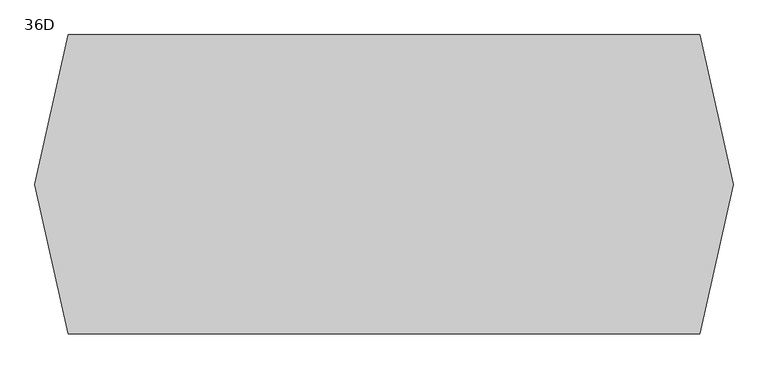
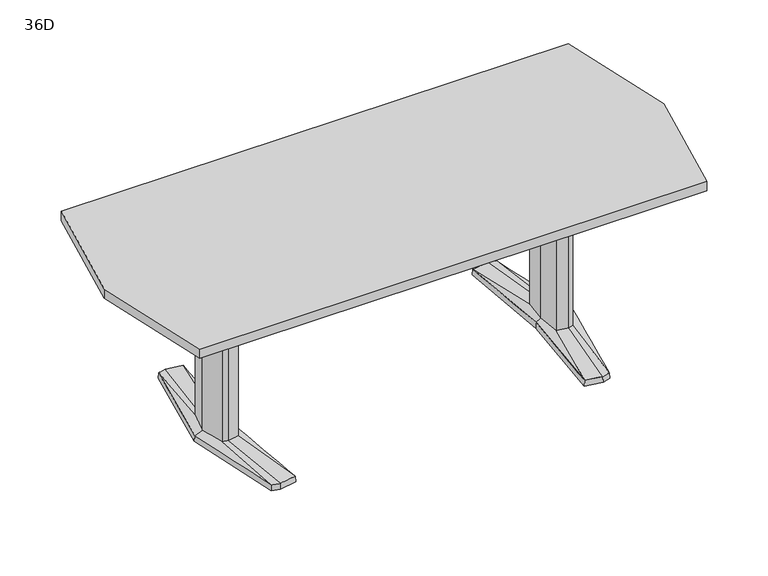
"""IFC4 building model written with IfcOpenShell, lengths in millimetres: furniture geometry, Coalesse_AM_Table_Conference_ETable2_Faceted_84in_AluminiumBase : 36D."""

import ifcopenshell
import ifcopenshell.guid

model = None  # the IFC model being written
_history = None  # IfcOwnerHistory: only IFC2X3 demands one
_inside = {}  # id of a spatial element -> (the spatial element, [elements in it])
_under = {}  # id of a project, library or spatial element -> (it, [spatial elements below it])
_declared = {}  # id of a project -> (the project, [libraries it declares])
_typed = {}  # id of a type object -> (the type object, [elements of that type])
_made_of = {}  # id of a material, layer set ... -> (it, [elements and type objects made of it])


def new_model(schema):
    """Start an empty IFC model of exactly this schema.

    Asked for "IFC4X3", IfcOpenShell would pick the latest addendum, in which some entities
    have other attributes; the version numbers below select the first issue.
    IFC2X3 requires an IfcOwnerHistory on every rooted entity: one is made here for all.
    """
    global model, _history
    if schema == "IFC4X3":
        model = ifcopenshell.file(schema_version=(4, 3, 0, 0))
    else:
        model = ifcopenshell.file(schema=schema)
    _inside.clear()
    _under.clear()
    _declared.clear()
    _typed.clear()
    _made_of.clear()
    _history = None
    if model.schema == "IFC2X3":
        org = make("IfcOrganization", Name="unknown")
        user = make(
            "IfcPersonAndOrganization",
            ThePerson=make("IfcPerson", FamilyName="unknown"),
            TheOrganization=org,
        )
        app = make(
            "IfcApplication",
            ApplicationDeveloper=org,
            Version="unknown",
            ApplicationFullName="unknown",
            ApplicationIdentifier="unknown",
        )
        _history = make(
            "IfcOwnerHistory",
            OwningUser=user,
            OwningApplication=app,
            ChangeAction="ADDED",
            CreationDate=0,
        )
    return model


def make(cls, **values):
    """One entity of the class cls with the attributes given. An attribute that is None is left unset."""
    return model.create_entity(
        cls, **{name: value for name, value in values.items() if value is not None}
    )


def rooted(cls, **values):
    """An entity with a GlobalId (a new one), such as an element, a storey or a relation."""
    return make(cls, GlobalId=ifcopenshell.guid.new(), OwnerHistory=_history, **values)


def si_unit(unit_type, name, prefix=None):
    """IfcSIUnit, for example si_unit("LENGTHUNIT", "METRE", prefix="MILLI")."""
    return make("IfcSIUnit", UnitType=unit_type, Prefix=prefix, Name=name)


def assignment(units):
    """IfcUnitAssignment: the units of a project."""
    return None if units is None else make("IfcUnitAssignment", Units=units)


def point(xyz):
    """IfcCartesianPoint."""
    return None if xyz is None else make("IfcCartesianPoint", Coordinates=xyz)


def direction(xyz):
    """IfcDirection."""
    return None if xyz is None else make("IfcDirection", DirectionRatios=xyz)


def frame(location, z_axis=None, x_axis=None):
    """IfcAxis2Placement3D, a coordinate frame: its origin and axes. An axis left out is left unset."""
    return make(
        "IfcAxis2Placement3D",
        Location=point(location),
        Axis=direction(z_axis),
        RefDirection=direction(x_axis),
    )


def origin():
    """The frame at (0, 0, 0) with its axes left unset."""
    return frame((0.0, 0.0, 0.0))


def place(relative_to, where):
    """IfcLocalPlacement: puts the frame where relative to a parent placement (None: the world)."""
    return make(
        "IfcLocalPlacement", PlacementRelTo=relative_to, RelativePlacement=where
    )


def context(
    kind, dimensions, precision=None, world=None, true_north=None, identifier=None
):
    """IfcGeometricRepresentationContext, for example the 3D "Model" context."""
    return make(
        "IfcGeometricRepresentationContext",
        ContextIdentifier=identifier,
        ContextType=kind,
        CoordinateSpaceDimension=dimensions,
        Precision=precision,
        WorldCoordinateSystem=world,
        TrueNorth=true_north,
    )


def project(units=None, contexts=None):
    """IfcProject with its units and contexts."""
    return rooted(
        "IfcProject",
        Name="project",
        RepresentationContexts=contexts,
        UnitsInContext=assignment(units),
    )


def spatial(cls, under=None, at=None, **own):
    """A site, building, storey or space (cls), placed at a placement, below another one or the project."""
    s = rooted(cls, ObjectPlacement=at, **own)
    if under is not None:
        _under.setdefault(under.id(), (under, []))[1].append(s)
    return s


def polyline(points):
    """IfcPolyline through the points."""
    return make("IfcPolyline", Points=[point(p) for p in points])


def outline(outer, holes=None, kind="AREA"):
    """IfcArbitraryClosedProfileDef: a profile drawn as a closed curve; with holes, ...WithVoids."""
    if holes is None:
        return make("IfcArbitraryClosedProfileDef", ProfileType=kind, OuterCurve=outer)
    return make(
        "IfcArbitraryProfileDefWithVoids",
        ProfileType=kind,
        OuterCurve=outer,
        InnerCurves=holes,
    )


def extrude(swept, where, along, depth):
    """IfcExtrudedAreaSolid: the profile swept, set in the frame where, extruded along a direction by depth."""
    return make(
        "IfcExtrudedAreaSolid",
        SweptArea=swept,
        Position=where,
        ExtrudedDirection=direction(along),
        Depth=depth,
    )


def shape(context_of_items, identifier, shape_type, items):
    """IfcShapeRepresentation: the items that make up one representation, for example the "Body"."""
    return make(
        "IfcShapeRepresentation",
        ContextOfItems=context_of_items,
        RepresentationIdentifier=identifier,
        RepresentationType=shape_type,
        Items=items,
    )


def source(mapping_origin, context_of_items, identifier, shape_type, items):
    """IfcRepresentationMap: a shape defined once, which mapped items show again and again."""
    return make(
        "IfcRepresentationMap",
        MappingOrigin=mapping_origin,
        MappedRepresentation=shape(context_of_items, identifier, shape_type, items),
    )


def transform(
    local_origin,
    x_axis=None,
    y_axis=None,
    z_axis=None,
    scale=None,
    scale2=None,
    scale3=None,
    uniform=True,
):
    """IfcCartesianTransformationOperator3D, or its non-uniform kind. x_axis, y_axis, z_axis: its Axis1, 2, 3."""
    if uniform:
        return make(
            "IfcCartesianTransformationOperator3D",
            Axis1=direction(x_axis),
            Axis2=direction(y_axis),
            LocalOrigin=point(local_origin),
            Scale=scale,
            Axis3=direction(z_axis),
        )
    return make(
        "IfcCartesianTransformationOperator3DnonUniform",
        Axis1=direction(x_axis),
        Axis2=direction(y_axis),
        LocalOrigin=point(local_origin),
        Scale=scale,
        Axis3=direction(z_axis),
        Scale2=scale2,
        Scale3=scale3,
    )


def mapped(mapping_source, mapping_target):
    """IfcMappedItem: shows the shape of a source again, moved by a transform."""
    return make(
        "IfcMappedItem", MappingSource=mapping_source, MappingTarget=mapping_target
    )


def made_of(thing, what):
    """Note that an element or type object is made of a material, layer set ...; save() writes the relation."""
    if what is not None:
        _made_of.setdefault(what.id(), (what, []))[1].append(thing)
    return thing


def element(
    cls,
    number,
    at=None,
    inside=None,
    cuts=None,
    type_object=None,
    material=None,
    context=None,
    identifier="Body",
    shape_type=None,
    held_by="IfcProductDefinitionShape",
    body=None,
    shapes=None,
    **own,
):
    """One element of the class cls, such as IfcWall. Its Tag is "e" and its number.

    at: its placement. inside: the storey or other place that contains it. cuts: it is an
    opening in that element (IfcRelVoidsElement). A single representation is given by context,
    identifier, shape_type and body (its items); several are given by shapes. held_by: the class
    of the entity that holds the representations. save() writes the other relations.
    """
    e = rooted(cls, Tag="e%d" % number, ObjectPlacement=at, **own)
    if body is not None:
        shapes = [shape(context, identifier, shape_type, body)]
    if shapes is not None:
        e.Representation = make(held_by, Representations=shapes)
    if inside is not None:
        _inside.setdefault(inside.id(), (inside, []))[1].append(e)
    if cuts is not None:
        rooted(
            "IfcRelVoidsElement", RelatingBuildingElement=cuts, RelatedOpeningElement=e
        )
    if type_object is not None:
        _typed.setdefault(type_object.id(), (type_object, []))[1].append(e)
    return made_of(e, material)


def aggregate(whole, parts):
    """IfcRelAggregates: a whole, such as a stair, and the parts it consists of."""
    return rooted("IfcRelAggregates", RelatingObject=whole, RelatedObjects=parts)


def save(model, path):
    """Write the relations noted so far, then the file.

    IfcRelAggregates (storeys below a building ...), IfcRelContainedInSpatialStructure (elements
    in a storey), IfcRelDefinesByType, IfcRelAssociatesMaterial and IfcRelDeclares: one each for
    every whole, place, type object, material and project.
    """
    for whole, parts in _under.values():
        aggregate(whole, parts)
    for where, things in _inside.values():
        rooted(
            "IfcRelContainedInSpatialStructure",
            RelatedElements=things,
            RelatingStructure=where,
        )
    for kind, things in _typed.values():
        rooted("IfcRelDefinesByType", RelatedObjects=things, RelatingType=kind)
    for what, things in _made_of.values():
        rooted("IfcRelAssociatesMaterial", RelatedObjects=things, RelatingMaterial=what)
    for by, libraries in _declared.values():
        rooted("IfcRelDeclares", RelatingContext=by, RelatedDefinitions=libraries)
    model.write(path)


def plane_surface(at):
    """IfcPlane: the flat surface through the origin of the frame at, square to its z axis."""
    return make("IfcPlane", Position=at)


def spline_surface(u_degree, v_degree, points, u_multiplicities, v_multiplicities, u_knots, v_knots, weights=None):
    """IfcBSplineSurfaceWithKnots; with weights, IfcRationalBSplineSurfaceWithKnots. points: one row for each step in u."""
    own = dict(
        UDegree=u_degree,
        VDegree=v_degree,
        ControlPointsList=[[point(p) for p in row] for row in points],
        SurfaceForm="UNSPECIFIED",
        UClosed=False,
        VClosed=False,
        SelfIntersect=False,
        UMultiplicities=u_multiplicities,
        VMultiplicities=v_multiplicities,
        UKnots=u_knots,
        VKnots=v_knots,
        KnotSpec="UNSPECIFIED",
    )
    if weights is None:
        return make("IfcBSplineSurfaceWithKnots", **own)
    return make("IfcRationalBSplineSurfaceWithKnots", WeightsData=weights, **own)


def advanced_brep(points, edges, surfaces, faces):
    """IfcAdvancedBrep: a solid bounded by faces that lie on surfaces and meet in shared edges.

    An edge is (start, end): straight between two places in points (the first is 0);
    or (start, end, curve); or (start, end, curve, False) where it runs against its curve.
    A face is (place in surfaces, loops), or (place, loops, False) where it looks against
    its surface's normal. A loop lists edges by number (the first is 1), with a minus sign
    where the edge is run from its end to its start. The first loop is the outer one.
    """
    corners = [point(p) for p in points]
    vertices = [make("IfcVertexPoint", VertexGeometry=c) for c in corners]
    made = []
    for start, end, *more in edges:
        made.append(
            make(
                "IfcEdgeCurve",
                EdgeStart=vertices[start],
                EdgeEnd=vertices[end],
                EdgeGeometry=more[0] if more else make("IfcPolyline", Points=[corners[start], corners[end]]),
                SameSense=more[1] if len(more) > 1 else True,
            )
        )
    hull = []
    for where, loops, *sense in faces:
        bounds = []
        for j, loop in enumerate(loops):
            ring = [make("IfcOrientedEdge", EdgeElement=made[abs(k) - 1], Orientation=k > 0) for k in loop]
            bounds.append(
                make(
                    "IfcFaceOuterBound" if j == 0 else "IfcFaceBound",
                    Bound=make("IfcEdgeLoop", EdgeList=ring),
                    Orientation=True,
                )
            )
        hull.append(make("IfcAdvancedFace", Bounds=bounds, FaceSurface=surfaces[where], SameSense=sense[0] if sense else True))
    return make("IfcAdvancedBrep", Outer=make("IfcClosedShell", CfsFaces=hull))


def furniture_36d_85cf5dbd(model_context):
    return source(origin(), model_context, "Body", "SolidModel", [
        advanced_brep(
        [(614.8503471, -379.3768856, 25.4), (644.5756636, -371.5332654, 25.4), (668.2327243, -89.293702, 36.5125), (648.9795254, -94.605478, 36.5125), (606.0521001, -87.0529327, 36.5125), (551.7612538, -368.5071562, 25.4), (597.9364207, 0.0, 36.5125), (579.8389754, 0.3970149, 25.4), (606.0521001, 87.0529327, 36.5125), (551.7615002, 368.5172593, 25.4), (648.9795254, 94.605478, 36.5125), (614.8502233, 379.3769183, 25.4), (668.2327243, 89.293702, 36.5125), (644.7535458, 371.4863276, 25.4), (692.1595251, 0.0, 36.5125), (721.4851663, 0.0003516, 25.4), (578.2468742, 0.3968871, 3.175), (550.06875, 369.8367279, 3.175), (614.9213004, 381.0, 3.175), (646.1093245, 372.7704151, 3.175), (723.10625, 0.0, 3.175), (645.9309817, -372.8174744, 3.175), (614.9213004, -381.0, 3.175), (550.06875, -369.8264415, 3.175), (649.5979264, 107.6121478, 3.175), (594.3065451, 97.8843184, 3.175), (585.1810887, 0.0, 3.175), (594.3065451, -97.8843184, 3.175), (649.5979264, -107.6121478, 3.175), (678.6183473, -99.6056872, 3.175), (705.3083085, 0.0, 3.175), (678.6183473, 99.6056872, 3.175), (613.4286812, 346.9152841, 3.175), (557.7811371, 337.3364985, 3.175), (560.1889918, 324.8641942, 3.175), (612.8600644, 333.9306305, 3.175), (648.6725609, 324.4807859, 3.175), (647.5544526, 337.9105158, 3.175), (613.4286812, -346.9152841, 3.175), (647.5544526, -337.9105158, 3.175), (648.6725609, -324.4807859, 3.175), (612.8600644, -333.9306305, 3.175), (560.1889918, -324.8641942, 3.175), (557.7811371, -337.3364985, 3.175), (649.5979264, 107.6121478, 0.0), (678.6183473, 99.6056872, 0.0), (705.3083085, 0.0, 0.0), (678.6183473, -99.6056872, 0.0), (649.5979264, -107.6121478, 0.0), (594.3065451, -97.8843184, 0.0), (585.1810887, 0.0, 0.0), (594.3065451, 97.8843184, 0.0), (613.4286812, 346.9152841, 0.0), (647.5544526, 337.9105158, 0.0), (648.6725609, 324.4807859, 0.0), (612.8600644, 333.9306305, 0.0), (560.1889918, 324.8641942, 0.0), (557.7811371, 337.3364985, 0.0), (613.4286812, -346.9152841, 0.0), (557.7811371, -337.3364985, 0.0), (560.1889918, -324.8641942, 0.0), (612.8600644, -333.9306305, 0.0), (648.6725609, -324.4807859, 0.0), (647.5544526, -337.9105158, 0.0), (668.2327243, 89.293702, 698.5), (648.9795254, 94.605478, 698.5), (606.0521001, 87.0529327, 698.5), (597.9364207, 0.0, 698.5), (606.0521001, -87.0529327, 698.5), (648.9795254, -94.605478, 698.5), (668.2327243, -89.293702, 698.5), (692.1595251, 0.0, 698.5)],
        [
            (0, 1),
            (1, 2),
            (2, 3),
            (3, 0),
            (3, 4),
            (4, 5),
            (5, 0),
            (4, 6),
            (6, 7),
            (7, 5),
            (6, 8),
            (8, 9),
            (9, 7),
            (8, 10),
            (10, 11),
            (11, 9),
            (10, 12),
            (12, 13),
            (13, 11),
            (12, 14),
            (14, 15),
            (15, 13),
            (1, 15),
            (14, 2),
            (16, 17),
            (17, 18),
            (18, 19),
            (19, 20),
            (20, 21),
            (21, 22),
            (22, 23),
            (23, 16),
            (24, 25),
            (25, 26),
            (26, 27),
            (27, 28),
            (28, 29),
            (29, 30),
            (30, 31),
            (31, 24),
            (32, 33),
            (33, 34),
            (34, 35),
            (35, 36),
            (36, 37),
            (37, 32),
            (38, 39),
            (39, 40),
            (40, 41),
            (41, 42),
            (42, 43),
            (43, 38),
            (16, 7),
            (9, 17),
            (11, 18),
            (13, 19),
            (15, 20),
            (1, 21),
            (0, 22),
            (5, 23),
            (44, 45),
            (45, 46),
            (46, 47),
            (47, 48),
            (48, 49),
            (49, 50),
            (50, 51),
            (51, 44),
            (52, 53),
            (53, 54),
            (54, 55),
            (55, 56),
            (56, 57),
            (57, 52),
            (58, 59),
            (59, 60),
            (60, 61),
            (61, 62),
            (62, 63),
            (63, 58),
            (44, 24),
            (31, 45),
            (30, 46),
            (29, 47),
            (28, 48),
            (27, 49),
            (26, 50),
            (25, 51),
            (52, 32),
            (37, 53),
            (36, 54),
            (35, 55),
            (34, 56),
            (33, 57),
            (58, 38),
            (43, 59),
            (42, 60),
            (41, 61),
            (40, 62),
            (39, 63),
            (64, 65),
            (65, 66),
            (66, 67),
            (67, 68),
            (68, 69),
            (69, 70),
            (70, 71),
            (71, 64),
            (71, 14),
            (12, 64),
            (70, 2),
            (69, 3),
            (68, 4),
            (67, 6),
            (66, 8),
            (65, 10),
        ],
        [
            spline_surface(1, 1, [[(644.5756636, -371.5332654, 25.4), (614.8503471, -379.3768856, 25.4)], [(668.2327243, -89.293702, 36.5125), (648.9795254, -94.605478, 36.5125)]], [2, 2], [2, 2], [0.0, 1.0], [0.0, 1.0]),
            spline_surface(1, 1, [[(614.8503471, -379.3768856, 25.4), (551.7612538, -368.5071562, 25.4)], [(648.9795254, -94.605478, 36.5125), (606.0521001, -87.0529327, 36.5125)]], [2, 2], [2, 2], [0.0, 1.0], [0.0, 1.0]),
            spline_surface(1, 1, [[(551.7612538, -368.5071562, 25.4), (579.8389754, 0.3970149, 25.4)], [(606.0521001, -87.0529327, 36.5125), (597.9364207, 0.0, 36.5125)]], [2, 2], [2, 2], [0.0, 1.0], [0.0, 1.0]),
            spline_surface(1, 1, [[(579.8389754, 0.3970149, 25.4), (551.7615002, 368.5172593, 25.4)], [(597.9364207, 0.0, 36.5125), (606.0521001, 87.0529327, 36.5125)]], [2, 2], [2, 2], [0.0, 1.0], [0.0, 1.0]),
            spline_surface(1, 1, [[(551.7615002, 368.5172593, 25.4), (614.8502233, 379.3769183, 25.4)], [(606.0521001, 87.0529327, 36.5125), (648.9795254, 94.605478, 36.5125)]], [2, 2], [2, 2], [0.0, 1.0], [0.0, 1.0]),
            spline_surface(1, 1, [[(614.8502233, 379.3769183, 25.4), (644.7535458, 371.4863276, 25.4)], [(648.9795254, 94.605478, 36.5125), (668.2327243, 89.293702, 36.5125)]], [2, 2], [2, 2], [0.0, 1.0], [0.0, 1.0]),
            spline_surface(1, 1, [[(644.7535458, 371.4863276, 25.4), (721.4851663, 0.0003516, 25.4)], [(668.2327243, 89.293702, 36.5125), (692.1595251, 0.0, 36.5125)]], [2, 2], [2, 2], [0.0, 1.0], [0.0, 1.0]),
            spline_surface(1, 1, [[(721.4851663, 0.0003516, 25.4), (644.5756636, -371.5332654, 25.4)], [(692.1595251, 0.0, 36.5125), (668.2327243, -89.293702, 36.5125)]], [2, 2], [2, 2], [0.0, 1.0], [0.0, 1.0]),
            plane_surface(frame((615.4216914, 0.0450143, 3.175), z_axis=(0.0, 0.0, -1.0), x_axis=(-0.9669048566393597, -0.2551372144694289, 0.0))),
            plane_surface(frame((564.1578121, 185.1168075, 3.175), z_axis=(-0.9945699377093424, -0.07585840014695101, 0.0712470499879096), x_axis=(-0.07605167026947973, 0.9971038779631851, 0.0))),
            plane_surface(frame((582.4950252, 375.418364, 3.175), z_axis=(-0.1692071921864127, 0.9830019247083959, 0.07124704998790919), x_axis=(0.985506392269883, 0.16963829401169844, 0.0))),
            plane_surface(frame((630.5153124, 376.8852076, 3.175), z_axis=(0.2544888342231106, 0.9644476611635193, 0.07124704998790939), x_axis=(0.9669048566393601, -0.25513721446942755, 0.0))),
            plane_surface(frame((684.6077872, 186.3852076, 3.175), z_axis=(0.9768383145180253, 0.2017690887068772, 0.07124704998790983), x_axis=(0.20228315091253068, -0.9793270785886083, 0.0))),
            plane_surface(frame((684.5186158, -186.4087372, 3.175), z_axis=(0.9767507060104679, -0.20219276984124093, 0.07124704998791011), x_axis=(-0.2027079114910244, -0.9792392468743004, 0.0))),
            plane_surface(frame((630.426141, -376.9087372, 3.175), z_axis=(0.2544888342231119, -0.9644476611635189, 0.0712470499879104), x_axis=(-0.9669048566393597, -0.2551372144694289, 0.0))),
            plane_surface(frame((582.4950252, -375.4132207, 3.175), z_axis=(-0.16935861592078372, -0.982975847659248, 0.07124704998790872), x_axis=(-0.9854802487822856, 0.16979010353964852, 0.0))),
            plane_surface(frame((564.1578121, -184.7147772, 3.175), z_axis=(-0.9945820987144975, 0.07569878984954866, 0.07124704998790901), x_axis=(0.07589165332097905, 0.9971160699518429, 0.0))),
            plane_surface(frame((652.3571479, 106.8509046, 0.0), z_axis=(0.0, 0.0, -1.0000000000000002), x_axis=(-0.9639855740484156, 0.26595453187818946, 0.0))),
            plane_surface(frame((649.5979264, 107.6121478, 3.175), z_axis=(0.26595453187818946, 0.9639855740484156, 0.0), x_axis=(0.0, 0.0, -1.0))),
            plane_surface(frame((678.6183473, 99.6056872, 3.175), z_axis=(0.9659241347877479, 0.2588253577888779, 0.0), x_axis=(0.0, 0.0, -1.0))),
            plane_surface(frame((705.3083085, 0.0, 3.175), z_axis=(0.9659241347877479, -0.2588253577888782, 0.0), x_axis=(0.0, 0.0, -1.0))),
            plane_surface(frame((678.6183473, -99.6056872, 3.175), z_axis=(0.26595453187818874, -0.9639855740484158, 0.0), x_axis=(0.0, 0.0, -1.0))),
            plane_surface(frame((649.5979264, -107.6121478, 3.175), z_axis=(-0.17327617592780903, -0.9848732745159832, 0.0), x_axis=(0.0, 0.0, -1.0))),
            plane_surface(frame((594.3065451, -97.8843184, 3.175), z_axis=(-0.9956824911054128, -0.0928244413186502, 0.0), x_axis=(0.0, 0.0, -1.0))),
            plane_surface(frame((585.1810887, 0.0, 3.175), z_axis=(-0.9956824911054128, 0.09282444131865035, 0.0), x_axis=(0.0, 0.0, -1.0))),
            plane_surface(frame((594.3065451, 97.8843184, 3.175), z_axis=(-0.17327617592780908, 0.984873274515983, 0.0), x_axis=(0.0, 0.0, -1.0))),
            plane_surface(frame((613.4286812, 346.9152841, 3.175), z_axis=(0.25513721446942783, 0.9669048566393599, 0.0), x_axis=(0.0, 0.0, -1.0))),
            plane_surface(frame((647.5544526, 337.9105158, 3.175), z_axis=(0.9965521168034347, 0.0829691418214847, 0.0), x_axis=(0.0, 0.0, -1.0))),
            plane_surface(frame((648.6725609, 324.4807859, 3.175), z_axis=(-0.25513721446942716, -0.9669048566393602, 0.0), x_axis=(0.0, 0.0, -1.0))),
            plane_surface(frame((612.8600644, 333.9306305, 3.175), z_axis=(0.16963829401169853, -0.985506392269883, 0.0), x_axis=(0.0, 0.0, -1.0))),
            plane_surface(frame((560.1889918, 324.8641942, 3.175), z_axis=(-0.9818699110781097, -0.18955600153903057, 0.0), x_axis=(0.0, 0.0, -1.0))),
            plane_surface(frame((557.7811371, 337.3364985, 3.175), z_axis=(-0.16963829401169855, 0.9855063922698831, 0.0), x_axis=(0.0, 0.0, -1.0))),
            plane_surface(frame((613.4286812, -346.9152841, 3.175), z_axis=(-0.1696382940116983, -0.9855063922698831, 0.0), x_axis=(0.0, 0.0, -1.0))),
            plane_surface(frame((557.7811371, -337.3364985, 3.175), z_axis=(-0.9818699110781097, 0.18955600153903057, 0.0), x_axis=(0.0, 0.0, -1.0))),
            plane_surface(frame((560.1889918, -324.8641942, 3.175), z_axis=(0.16963829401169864, 0.985506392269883, 0.0), x_axis=(0.0, 0.0, -1.0))),
            plane_surface(frame((612.8600644, -333.9306305, 3.175), z_axis=(-0.2551372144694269, 0.9669048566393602, 0.0), x_axis=(0.0, 0.0, -1.0))),
            plane_surface(frame((648.6725609, -324.4807859, 3.175), z_axis=(0.9965521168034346, -0.0829691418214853, 0.0), x_axis=(0.0, 0.0, -1.0))),
            plane_surface(frame((647.5544526, -337.9105158, 3.175), z_axis=(0.2551372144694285, -0.9669048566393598, 0.0), x_axis=(0.0, 0.0, -1.0))),
            plane_surface(frame((692.1595251, 0.0, 698.5), z_axis=(0.0, 0.0, 1.0), x_axis=(0.25882535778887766, -0.965924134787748, 0.0))),
            plane_surface(frame((668.2327243, 89.293702, 698.5), z_axis=(0.965924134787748, 0.25882535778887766, 0.0), x_axis=(0.0, 0.0, -1.0))),
            plane_surface(frame((692.1595251, 0.0, 698.5), z_axis=(0.965924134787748, -0.2588253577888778, 0.0), x_axis=(0.0, 0.0, -1.0))),
            plane_surface(frame((668.2327243, -89.293702, 698.5), z_axis=(0.2659545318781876, -0.963985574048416, 0.0), x_axis=(0.0, 0.0, -1.0))),
            plane_surface(frame((648.9795254, -94.605478, 698.5), z_axis=(-0.1732761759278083, -0.9848732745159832, 0.0), x_axis=(0.0, 0.0, -1.0))),
            plane_surface(frame((606.0521001, -87.0529327, 698.5), z_axis=(-0.9956824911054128, -0.0928244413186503, 0.0), x_axis=(0.0, 0.0, -1.0))),
            plane_surface(frame((597.9364207, 0.0, 698.5), z_axis=(-0.9956824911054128, 0.09282444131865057, 0.0), x_axis=(0.0, 0.0, -1.0))),
            plane_surface(frame((606.0521001, 87.0529327, 698.5), z_axis=(-0.17327617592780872, 0.9848732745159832, 0.0), x_axis=(0.0, 0.0, -1.0))),
            plane_surface(frame((648.9795254, 94.605478, 698.5), z_axis=(0.26595453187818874, 0.9639855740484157, 0.0), x_axis=(0.0, 0.0, -1.0))),
        ],
        [
            (0, [[1, 2, 3, 4]]),
            (1, [[5, 6, 7, -4]]),
            (2, [[8, 9, 10, -6]]),
            (3, [[11, 12, 13, -9]]),
            (4, [[14, 15, 16, -12]]),
            (5, [[17, 18, 19, -15]]),
            (6, [[20, 21, 22, -18]]),
            (7, [[23, -21, 24, -2]]),
            (8, [[25, 26, 27, 28, 29, 30, 31, 32], [33, 34, 35, 36, 37, 38, 39, 40], [41, 42, 43, 44, 45, 46], [47, 48, 49, 50, 51, 52]]),
            (9, [[53, -13, 54, -25]]),
            (10, [[-54, -16, 55, -26]]),
            (11, [[-55, -19, 56, -27]]),
            (12, [[-56, -22, 57, -28]]),
            (13, [[-57, -23, 58, -29]]),
            (14, [[-58, -1, 59, -30]]),
            (15, [[-59, -7, 60, -31]]),
            (16, [[-60, -10, -53, -32]]),
            (17, [[61, 62, 63, 64, 65, 66, 67, 68]]),
            (17, [[69, 70, 71, 72, 73, 74]]),
            (17, [[75, 76, 77, 78, 79, 80]]),
            (18, [[81, -40, 82, -61]]),
            (19, [[-82, -39, 83, -62]]),
            (20, [[-83, -38, 84, -63]]),
            (21, [[-84, -37, 85, -64]]),
            (22, [[-85, -36, 86, -65]]),
            (23, [[-86, -35, 87, -66]]),
            (24, [[-87, -34, 88, -67]]),
            (25, [[-88, -33, -81, -68]]),
            (26, [[89, -46, 90, -69]]),
            (27, [[-90, -45, 91, -70]]),
            (28, [[-91, -44, 92, -71]]),
            (29, [[-92, -43, 93, -72]]),
            (30, [[-93, -42, 94, -73]]),
            (31, [[-94, -41, -89, -74]]),
            (32, [[95, -52, 96, -75]]),
            (33, [[-96, -51, 97, -76]]),
            (34, [[-97, -50, 98, -77]]),
            (35, [[-98, -49, 99, -78]]),
            (36, [[-99, -48, 100, -79]]),
            (37, [[-100, -47, -95, -80]]),
            (38, [[101, 102, 103, 104, 105, 106, 107, 108]]),
            (39, [[109, -20, 110, -108]]),
            (40, [[111, -24, -109, -107]]),
            (41, [[112, -3, -111, -106]]),
            (42, [[113, -5, -112, -105]]),
            (43, [[114, -8, -113, -104]]),
            (44, [[115, -11, -114, -103]]),
            (45, [[116, -14, -115, -102]]),
            (46, [[-110, -17, -116, -101]]),
        ],
    ),
        advanced_brep(
        [(-614.8503471, -379.3768856, 25.4), (-648.9795254, -94.605478, 36.5125), (-668.2327243, -89.293702, 36.5125), (-644.5756636, -371.5332654, 25.4), (-551.7612538, -368.5071562, 25.4), (-606.0521001, -87.0529327, 36.5125), (-579.8389754, 0.3970149, 25.4), (-597.9364207, 0.0, 36.5125), (-551.7615002, 368.5172593, 25.4), (-606.0521001, 87.0529327, 36.5125), (-614.8502233, 379.3769183, 25.4), (-648.9795254, 94.605478, 36.5125), (-644.7535458, 371.4863276, 25.4), (-668.2327243, 89.293702, 36.5125), (-721.4851663, 0.0003516, 25.4), (-692.1595251, 0.0, 36.5125), (-578.2468742, 0.3968871, 3.175), (-550.06875, -369.8264415, 3.175), (-614.9213004, -381.0, 3.175), (-645.9309817, -372.8174744, 3.175), (-723.10625, 0.0, 3.175), (-646.1093245, 372.7704151, 3.175), (-614.9213004, 381.0, 3.175), (-550.06875, 369.8367279, 3.175), (-649.5979264, 107.6121478, 3.175), (-678.6183473, 99.6056872, 3.175), (-705.3083085, 0.0, 3.175), (-678.6183473, -99.6056872, 3.175), (-649.5979264, -107.6121478, 3.175), (-594.3065451, -97.8843184, 3.175), (-585.1810887, 0.0, 3.175), (-594.3065451, 97.8843184, 3.175), (-613.4286812, 346.9152841, 3.175), (-647.5544526, 337.9105158, 3.175), (-648.6725609, 324.4807859, 3.175), (-612.8600644, 333.9306305, 3.175), (-560.1889918, 324.8641942, 3.175), (-557.7811371, 337.3364985, 3.175), (-613.4286812, -346.9152841, 3.175), (-557.7811371, -337.3364985, 3.175), (-560.1889918, -324.8641942, 3.175), (-612.8600644, -333.9306305, 3.175), (-648.6725609, -324.4807859, 3.175), (-647.5544526, -337.9105158, 3.175), (-649.5979264, 107.6121478, 0.0), (-594.3065451, 97.8843184, 0.0), (-585.1810887, 0.0, 0.0), (-594.3065451, -97.8843184, 0.0), (-649.5979264, -107.6121478, 0.0), (-678.6183473, -99.6056872, 0.0), (-705.3083085, 0.0, 0.0), (-678.6183473, 99.6056872, 0.0), (-613.4286812, 346.9152841, 0.0), (-557.7811371, 337.3364985, 0.0), (-560.1889918, 324.8641942, 0.0), (-612.8600644, 333.9306305, 0.0), (-648.6725609, 324.4807859, 0.0), (-647.5544526, 337.9105158, 0.0), (-613.4286812, -346.9152841, 0.0), (-647.5544526, -337.9105158, 0.0), (-648.6725609, -324.4807859, 0.0), (-612.8600644, -333.9306305, 0.0), (-560.1889918, -324.8641942, 0.0), (-557.7811371, -337.3364985, 0.0), (-668.2327243, 89.293702, 698.5), (-692.1595251, 0.0, 698.5), (-668.2327243, -89.293702, 698.5), (-648.9795254, -94.605478, 698.5), (-606.0521001, -87.0529327, 698.5), (-597.9364207, 0.0, 698.5), (-606.0521001, 87.0529327, 698.5), (-648.9795254, 94.605478, 698.5)],
        [
            (0, 1),
            (1, 2),
            (2, 3),
            (3, 0),
            (0, 4),
            (4, 5),
            (5, 1),
            (4, 6),
            (6, 7),
            (7, 5),
            (6, 8),
            (8, 9),
            (9, 7),
            (8, 10),
            (10, 11),
            (11, 9),
            (10, 12),
            (12, 13),
            (13, 11),
            (12, 14),
            (14, 15),
            (15, 13),
            (2, 15),
            (14, 3),
            (16, 17),
            (17, 18),
            (18, 19),
            (19, 20),
            (20, 21),
            (21, 22),
            (22, 23),
            (23, 16),
            (24, 25),
            (25, 26),
            (26, 27),
            (27, 28),
            (28, 29),
            (29, 30),
            (30, 31),
            (31, 24),
            (32, 33),
            (33, 34),
            (34, 35),
            (35, 36),
            (36, 37),
            (37, 32),
            (38, 39),
            (39, 40),
            (40, 41),
            (41, 42),
            (42, 43),
            (43, 38),
            (23, 8),
            (6, 16),
            (22, 10),
            (21, 12),
            (20, 14),
            (19, 3),
            (18, 0),
            (17, 4),
            (44, 45),
            (45, 46),
            (46, 47),
            (47, 48),
            (48, 49),
            (49, 50),
            (50, 51),
            (51, 44),
            (52, 53),
            (53, 54),
            (54, 55),
            (55, 56),
            (56, 57),
            (57, 52),
            (58, 59),
            (59, 60),
            (60, 61),
            (61, 62),
            (62, 63),
            (63, 58),
            (51, 25),
            (24, 44),
            (50, 26),
            (49, 27),
            (48, 28),
            (47, 29),
            (46, 30),
            (45, 31),
            (57, 33),
            (32, 52),
            (56, 34),
            (55, 35),
            (54, 36),
            (53, 37),
            (63, 39),
            (38, 58),
            (62, 40),
            (61, 41),
            (60, 42),
            (59, 43),
            (64, 65),
            (65, 66),
            (66, 67),
            (67, 68),
            (68, 69),
            (69, 70),
            (70, 71),
            (71, 64),
            (64, 13),
            (15, 65),
            (2, 66),
            (1, 67),
            (5, 68),
            (7, 69),
            (9, 70),
            (11, 71),
        ],
        [
            spline_surface(1, 1, [[(-644.5756636, -371.5332654, 25.4), (-668.2327243, -89.293702, 36.5125)], [(-614.8503471, -379.3768856, 25.4), (-648.9795254, -94.605478, 36.5125)]], [2, 2], [2, 2], [0.0, 1.0], [0.0, 1.0]),
            spline_surface(1, 1, [[(-614.8503471, -379.3768856, 25.4), (-648.9795254, -94.605478, 36.5125)], [(-551.7612538, -368.5071562, 25.4), (-606.0521001, -87.0529327, 36.5125)]], [2, 2], [2, 2], [0.0, 1.0], [0.0, 1.0]),
            spline_surface(1, 1, [[(-551.7612538, -368.5071562, 25.4), (-606.0521001, -87.0529327, 36.5125)], [(-579.8389754, 0.3970149, 25.4), (-597.9364207, 0.0, 36.5125)]], [2, 2], [2, 2], [0.0, 1.0], [0.0, 1.0]),
            spline_surface(1, 1, [[(-579.8389754, 0.3970149, 25.4), (-597.9364207, 0.0, 36.5125)], [(-551.7615002, 368.5172593, 25.4), (-606.0521001, 87.0529327, 36.5125)]], [2, 2], [2, 2], [0.0, 1.0], [0.0, 1.0]),
            spline_surface(1, 1, [[(-551.7615002, 368.5172593, 25.4), (-606.0521001, 87.0529327, 36.5125)], [(-614.8502233, 379.3769183, 25.4), (-648.9795254, 94.605478, 36.5125)]], [2, 2], [2, 2], [0.0, 1.0], [0.0, 1.0]),
            spline_surface(1, 1, [[(-614.8502233, 379.3769183, 25.4), (-648.9795254, 94.605478, 36.5125)], [(-644.7535458, 371.4863276, 25.4), (-668.2327243, 89.293702, 36.5125)]], [2, 2], [2, 2], [0.0, 1.0], [0.0, 1.0]),
            spline_surface(1, 1, [[(-644.7535458, 371.4863276, 25.4), (-668.2327243, 89.293702, 36.5125)], [(-721.4851663, 0.0003516, 25.4), (-692.1595251, 0.0, 36.5125)]], [2, 2], [2, 2], [0.0, 1.0], [0.0, 1.0]),
            spline_surface(1, 1, [[(-721.4851663, 0.0003516, 25.4), (-692.1595251, 0.0, 36.5125)], [(-644.5756636, -371.5332654, 25.4), (-668.2327243, -89.293702, 36.5125)]], [2, 2], [2, 2], [0.0, 1.0], [0.0, 1.0]),
            plane_surface(frame((-615.4216914, 0.0450143, 3.175), z_axis=(0.0, 0.0, -1.0), x_axis=(0.9669048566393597, -0.2551372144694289, 0.0))),
            plane_surface(frame((-564.1578121, 185.1168075, 3.175), z_axis=(0.9945699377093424, -0.07585840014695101, 0.0712470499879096), x_axis=(0.07605167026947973, 0.9971038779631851, 0.0))),
            plane_surface(frame((-582.4950252, 375.418364, 3.175), z_axis=(0.1692071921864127, 0.9830019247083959, 0.07124704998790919), x_axis=(-0.985506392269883, 0.16963829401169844, 0.0))),
            plane_surface(frame((-630.5153124, 376.8852076, 3.175), z_axis=(-0.2544888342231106, 0.9644476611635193, 0.07124704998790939), x_axis=(-0.9669048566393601, -0.25513721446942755, 0.0))),
            plane_surface(frame((-684.6077872, 186.3852076, 3.175), z_axis=(-0.9768383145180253, 0.2017690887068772, 0.07124704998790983), x_axis=(-0.20228315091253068, -0.9793270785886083, 0.0))),
            plane_surface(frame((-684.5186158, -186.4087372, 3.175), z_axis=(-0.9767507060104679, -0.20219276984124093, 0.07124704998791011), x_axis=(0.2027079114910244, -0.9792392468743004, 0.0))),
            plane_surface(frame((-630.426141, -376.9087372, 3.175), z_axis=(-0.2544888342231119, -0.9644476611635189, 0.0712470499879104), x_axis=(0.9669048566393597, -0.2551372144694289, 0.0))),
            plane_surface(frame((-582.4950252, -375.4132207, 3.175), z_axis=(0.16935861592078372, -0.982975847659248, 0.07124704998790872), x_axis=(0.9854802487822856, 0.16979010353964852, 0.0))),
            plane_surface(frame((-564.1578121, -184.7147772, 3.175), z_axis=(0.9945820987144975, 0.07569878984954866, 0.07124704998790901), x_axis=(-0.07589165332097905, 0.9971160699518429, 0.0))),
            plane_surface(frame((-652.3571479, 106.8509046, 0.0), z_axis=(0.0, 0.0, -1.0000000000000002), x_axis=(0.9639855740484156, 0.26595453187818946, 0.0))),
            plane_surface(frame((-649.5979264, 107.6121478, 3.175), z_axis=(-0.26595453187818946, 0.9639855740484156, 0.0), x_axis=(0.0, 0.0, -1.0))),
            plane_surface(frame((-678.6183473, 99.6056872, 3.175), z_axis=(-0.9659241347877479, 0.2588253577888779, 0.0), x_axis=(0.0, 0.0, -1.0))),
            plane_surface(frame((-705.3083085, 0.0, 3.175), z_axis=(-0.9659241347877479, -0.2588253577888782, 0.0), x_axis=(0.0, 0.0, -1.0))),
            plane_surface(frame((-678.6183473, -99.6056872, 3.175), z_axis=(-0.26595453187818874, -0.9639855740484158, 0.0), x_axis=(0.0, 0.0, -1.0))),
            plane_surface(frame((-649.5979264, -107.6121478, 3.175), z_axis=(0.17327617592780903, -0.9848732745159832, 0.0), x_axis=(0.0, 0.0, -1.0))),
            plane_surface(frame((-594.3065451, -97.8843184, 3.175), z_axis=(0.9956824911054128, -0.0928244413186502, 0.0), x_axis=(0.0, 0.0, -1.0))),
            plane_surface(frame((-585.1810887, 0.0, 3.175), z_axis=(0.9956824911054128, 0.09282444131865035, 0.0), x_axis=(0.0, 0.0, -1.0))),
            plane_surface(frame((-594.3065451, 97.8843184, 3.175), z_axis=(0.17327617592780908, 0.984873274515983, 0.0), x_axis=(0.0, 0.0, -1.0))),
            plane_surface(frame((-613.4286812, 346.9152841, 3.175), z_axis=(-0.25513721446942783, 0.9669048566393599, 0.0), x_axis=(0.0, 0.0, -1.0))),
            plane_surface(frame((-647.5544526, 337.9105158, 3.175), z_axis=(-0.9965521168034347, 0.0829691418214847, 0.0), x_axis=(0.0, 0.0, -1.0))),
            plane_surface(frame((-648.6725609, 324.4807859, 3.175), z_axis=(0.25513721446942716, -0.9669048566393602, 0.0), x_axis=(0.0, 0.0, -1.0))),
            plane_surface(frame((-612.8600644, 333.9306305, 3.175), z_axis=(-0.16963829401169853, -0.985506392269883, 0.0), x_axis=(0.0, 0.0, -1.0))),
            plane_surface(frame((-560.1889918, 324.8641942, 3.175), z_axis=(0.9818699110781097, -0.18955600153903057, 0.0), x_axis=(0.0, 0.0, -1.0))),
            plane_surface(frame((-557.7811371, 337.3364985, 3.175), z_axis=(0.16963829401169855, 0.9855063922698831, 0.0), x_axis=(0.0, 0.0, -1.0))),
            plane_surface(frame((-613.4286812, -346.9152841, 3.175), z_axis=(0.1696382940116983, -0.9855063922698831, 0.0), x_axis=(0.0, 0.0, -1.0))),
            plane_surface(frame((-557.7811371, -337.3364985, 3.175), z_axis=(0.9818699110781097, 0.18955600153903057, 0.0), x_axis=(0.0, 0.0, -1.0))),
            plane_surface(frame((-560.1889918, -324.8641942, 3.175), z_axis=(-0.16963829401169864, 0.985506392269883, 0.0), x_axis=(0.0, 0.0, -1.0))),
            plane_surface(frame((-612.8600644, -333.9306305, 3.175), z_axis=(0.2551372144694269, 0.9669048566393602, 0.0), x_axis=(0.0, 0.0, -1.0))),
            plane_surface(frame((-648.6725609, -324.4807859, 3.175), z_axis=(-0.9965521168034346, -0.0829691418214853, 0.0), x_axis=(0.0, 0.0, -1.0))),
            plane_surface(frame((-647.5544526, -337.9105158, 3.175), z_axis=(-0.2551372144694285, -0.9669048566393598, 0.0), x_axis=(0.0, 0.0, -1.0))),
            plane_surface(frame((-692.1595251, 0.0, 698.5), z_axis=(0.0, 0.0, 1.0), x_axis=(-0.25882535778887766, -0.965924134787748, 0.0))),
            plane_surface(frame((-668.2327243, 89.293702, 698.5), z_axis=(-0.965924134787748, 0.25882535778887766, 0.0), x_axis=(0.0, 0.0, -1.0))),
            plane_surface(frame((-692.1595251, 0.0, 698.5), z_axis=(-0.965924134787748, -0.2588253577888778, 0.0), x_axis=(0.0, 0.0, -1.0))),
            plane_surface(frame((-668.2327243, -89.293702, 698.5), z_axis=(-0.2659545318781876, -0.963985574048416, 0.0), x_axis=(0.0, 0.0, -1.0))),
            plane_surface(frame((-648.9795254, -94.605478, 698.5), z_axis=(0.1732761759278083, -0.9848732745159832, 0.0), x_axis=(0.0, 0.0, -1.0))),
            plane_surface(frame((-606.0521001, -87.0529327, 698.5), z_axis=(0.9956824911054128, -0.0928244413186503, 0.0), x_axis=(0.0, 0.0, -1.0))),
            plane_surface(frame((-597.9364207, 0.0, 698.5), z_axis=(0.9956824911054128, 0.09282444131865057, 0.0), x_axis=(0.0, 0.0, -1.0))),
            plane_surface(frame((-606.0521001, 87.0529327, 698.5), z_axis=(0.17327617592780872, 0.9848732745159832, 0.0), x_axis=(0.0, 0.0, -1.0))),
            plane_surface(frame((-648.9795254, 94.605478, 698.5), z_axis=(-0.26595453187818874, 0.9639855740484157, 0.0), x_axis=(0.0, 0.0, -1.0))),
        ],
        [
            (0, [[1, 2, 3, 4]]),
            (1, [[-1, 5, 6, 7]]),
            (2, [[-6, 8, 9, 10]]),
            (3, [[-9, 11, 12, 13]]),
            (4, [[-12, 14, 15, 16]]),
            (5, [[-15, 17, 18, 19]]),
            (6, [[-18, 20, 21, 22]]),
            (7, [[-3, 23, -21, 24]]),
            (8, [[25, 26, 27, 28, 29, 30, 31, 32], [33, 34, 35, 36, 37, 38, 39, 40], [41, 42, 43, 44, 45, 46], [47, 48, 49, 50, 51, 52]]),
            (9, [[-32, 53, -11, 54]]),
            (10, [[-31, 55, -14, -53]]),
            (11, [[-30, 56, -17, -55]]),
            (12, [[-29, 57, -20, -56]]),
            (13, [[-28, 58, -24, -57]]),
            (14, [[-27, 59, -4, -58]]),
            (15, [[-26, 60, -5, -59]]),
            (16, [[-25, -54, -8, -60]]),
            (17, [[61, 62, 63, 64, 65, 66, 67, 68]]),
            (17, [[69, 70, 71, 72, 73, 74]]),
            (17, [[75, 76, 77, 78, 79, 80]]),
            (18, [[-68, 81, -33, 82]]),
            (19, [[-67, 83, -34, -81]]),
            (20, [[-66, 84, -35, -83]]),
            (21, [[-65, 85, -36, -84]]),
            (22, [[-64, 86, -37, -85]]),
            (23, [[-63, 87, -38, -86]]),
            (24, [[-62, 88, -39, -87]]),
            (25, [[-61, -82, -40, -88]]),
            (26, [[-74, 89, -41, 90]]),
            (27, [[-73, 91, -42, -89]]),
            (28, [[-72, 92, -43, -91]]),
            (29, [[-71, 93, -44, -92]]),
            (30, [[-70, 94, -45, -93]]),
            (31, [[-69, -90, -46, -94]]),
            (32, [[-80, 95, -47, 96]]),
            (33, [[-79, 97, -48, -95]]),
            (34, [[-78, 98, -49, -97]]),
            (35, [[-77, 99, -50, -98]]),
            (36, [[-76, 100, -51, -99]]),
            (37, [[-75, -96, -52, -100]]),
            (38, [[101, 102, 103, 104, 105, 106, 107, 108]]),
            (39, [[-101, 109, -22, 110]]),
            (40, [[-102, -110, -23, 111]]),
            (41, [[-103, -111, -2, 112]]),
            (42, [[-104, -112, -7, 113]]),
            (43, [[-105, -113, -10, 114]]),
            (44, [[-106, -114, -13, 115]]),
            (45, [[-107, -115, -16, 116]]),
            (46, [[-108, -116, -19, -109]]),
        ],
    ),
        extrude(outline(polyline([(-1066.8, 0.0), (-965.4406345, 457.2), (965.4406345, 457.2), (1066.8, 0.0), (965.4406345, -457.2), (-965.4406345, -457.2), (-1066.8, 0.0)])), frame((0.0, 0.0, 698.5), z_axis=(0.0, 0.0, 1.0), x_axis=(1.0, 0.0, 0.0)), (0.0, 0.0, 1.0), 38.1),
        extrude(outline(polyline([(96.8375, 698.5), (103.1875, 698.5), (103.1875, 476.25), (-103.1875, 476.25), (-103.1875, 698.5), (-96.8375, 698.5), (-96.8375, 482.6), (96.8375, 482.6), (96.8375, 698.5)])), frame((-597.9364207, 0.0, 0.0), z_axis=(1.0, 0.0, 0.0), x_axis=(0.0, 1.0, 0.0)), (0.0, 0.0, 1.0), 1195.8728415),
    ])


if __name__ == "__main__":
    model = new_model("IFC4")
    model_context = context("Model", 3, world=origin())
    ifc_project = project(units=[si_unit("LENGTHUNIT", "METRE", prefix="MILLI")], contexts=[model_context])
    site = spatial("IfcSite", under=ifc_project)
    building = spatial("IfcBuilding", under=site)
    placement = place(None, origin())
    furniture_36d_shape = furniture_36d_85cf5dbd(model_context)
    element("IfcFurniture", 1, ObjectType="Coalesse_AM_Table_Conference_ETable2_Faceted_84in_AluminiumBase : 36D", at=placement, inside=building, context=model_context, shape_type="MappedRepresentation", body=[
        mapped(furniture_36d_shape, transform((0.0, 0.0, 0.0), x_axis=(1.0, 0.0, 0.0), y_axis=(0.0, 1.0, 0.0), z_axis=(0.0, 0.0, 1.0))),
    ])
    save(model, "model.ifc")
